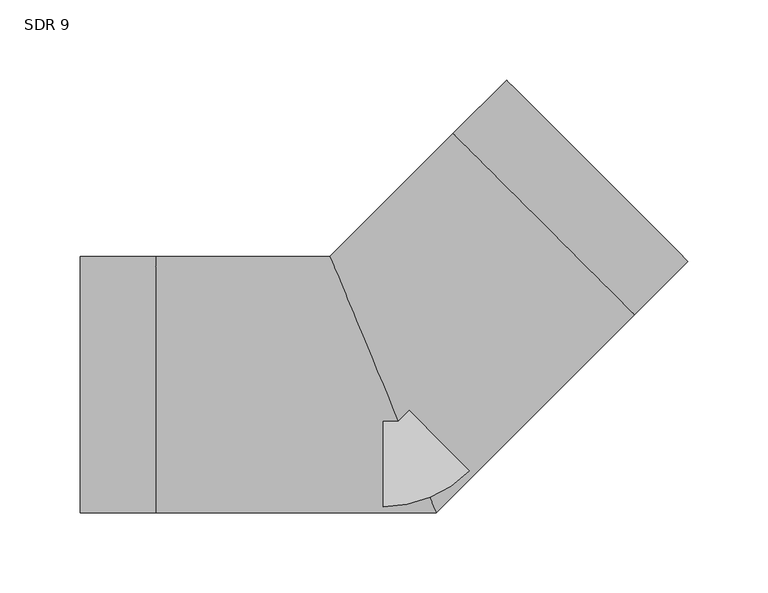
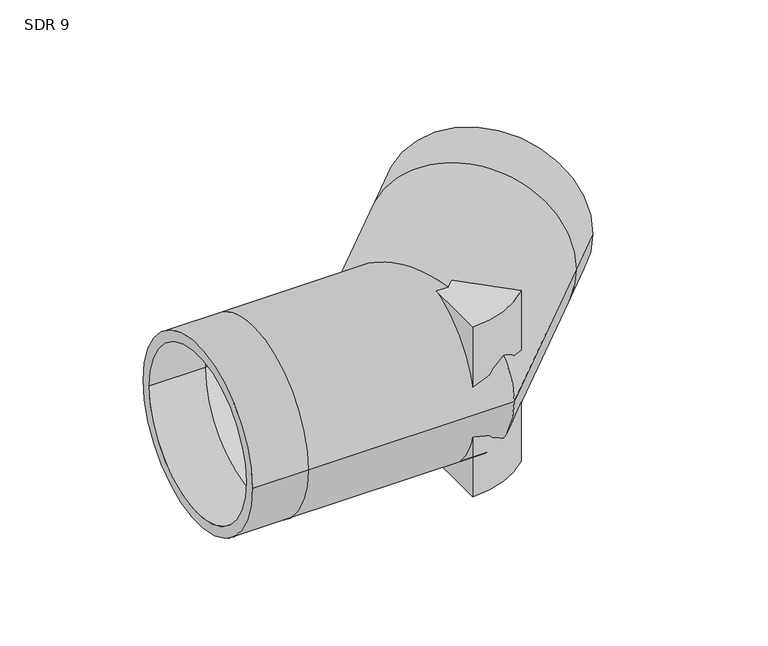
"""IFC4 building model written with IfcOpenShell, lengths in millimetres: pipe fitting geometry, Aquatherm - Elbow Blue BW Segmented : SDR 9."""

from ifc_helpers import new_model, si_unit, point, frame, origin, origin_with_axes, origin_2d, place, context, project, spatial, polyline, circle_curve, ellipse_curve, trimmed, segment, composite_curve, outline, extrude, source, transform, mapped, element, save
from ifc_brep_helpers import plane_surface, cylinder_surface, revolved_surface, advanced_brep


def sdr_9_eb6b9208(model_context):
    return source(origin(), model_context, "Body", "SolidModel", [
        extrude(outline(composite_curve([segment(polyline([(0.0, -76.2), (0.0, 0.0), (53.8815367, -53.8815367)]), True, "CONTINUOUS"), segment(trimmed(circle_curve(origin_2d(), 76.2), [point((53.8815367, -53.8815367))], [point((0.0, -76.2))], False, "CARTESIAN"), True, "CONTINUOUS")], self_intersect=False)), frame((0.0, 0.0, -76.2), z_axis=(0.0, 0.0, 1.0), x_axis=(1.0, 0.0, 0.0)), (0.0, 0.0, 1.0), 76.2),
        extrude(outline(composite_curve([segment(trimmed(circle_curve(origin_2d(), 76.2), [point((53.8815367, -53.8815367))], [point((0.0, -76.2))], False, "CARTESIAN"), True, "CONTINUOUS"), segment(polyline([(0.0, -76.2), (0.0, 0.0), (53.8815367, -53.8815367)]), True, "CONTINUOUS")], self_intersect=False)), origin_with_axes(), (0.0, 0.0, 1.0), 76.2),
        advanced_brep(
        [(-188.976, -80.01, 0.0), (-188.976, 80.01, 0.0), (-188.976, -70.9187617, 0.0), (-188.976, 70.9187617, 0.0), (190.2018246, 77.0505975, 0.0), (77.0505975, 190.2018246, 0.0), (183.7733484, 83.4790738, 0.0), (83.4790738, 183.7733484, 0.0), (-141.732, -80.01, 0.0), (-141.732, 80.01, 0.0), (-141.732, -70.9187617, 0.0), (-141.732, 70.9187617, 0.0), (33.1412271, -80.01, 0.0), (-33.1412271, 80.01, 0.0), (29.3755129, -70.9187617, 0.0), (-29.3755129, 70.9187617, 0.0), (156.7952719, 43.6440447, 0.0), (43.6440447, 156.7952719, 0.0), (150.3667956, 50.072521, 0.0), (50.072521, 150.3667956, 0.0)],
        [
            (0, 1, circle_curve(frame((-188.976, 0.0, 0.0), z_axis=(-1.0, 0.0, 0.0), x_axis=(0.0, 1.0, 0.0)), 80.01)),
            (1, 0, circle_curve(frame((-188.976, 0.0, 0.0), z_axis=(-1.0, 0.0, 0.0), x_axis=(0.0, 1.0, 0.0)), 80.01)),
            (2, 3, circle_curve(frame((-188.976, 0.0, 0.0), z_axis=(1.0, 0.0, 0.0), x_axis=(0.0, 1.0, 0.0)), 70.9187617)),
            (3, 2, circle_curve(frame((-188.976, 0.0, 0.0), z_axis=(1.0, 0.0, 0.0), x_axis=(0.0, 1.0, 0.0)), 70.9187617)),
            (4, 5, circle_curve(frame((133.6262111, 133.6262111, 0.0), z_axis=(0.7071067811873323, 0.7071067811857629, 0.0), x_axis=(-0.7071067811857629, 0.7071067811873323, 0.0)), 80.01)),
            (5, 4, circle_curve(frame((133.6262111, 133.6262111, 0.0), z_axis=(0.7071067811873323, 0.7071067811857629, 0.0), x_axis=(-0.7071067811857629, 0.7071067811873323, 0.0)), 80.01)),
            (6, 7, circle_curve(frame((133.6262111, 133.6262111, 0.0), z_axis=(-0.7071067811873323, -0.7071067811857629, 0.0), x_axis=(-0.7071067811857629, 0.7071067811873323, 0.0)), 70.9187617)),
            (7, 6, circle_curve(frame((133.6262111, 133.6262111, 0.0), z_axis=(-0.7071067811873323, -0.7071067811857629, 0.0), x_axis=(-0.7071067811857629, 0.7071067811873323, 0.0)), 70.9187617)),
            (0, 8),
            (8, 9, circle_curve(frame((-141.732, 0.0, 0.0), z_axis=(-1.0, 0.0, 0.0), x_axis=(0.0, 1.0, 0.0)), 80.01)),
            (9, 1),
            (9, 8, circle_curve(frame((-141.732, 0.0, 0.0), z_axis=(-1.0, 0.0, 0.0), x_axis=(0.0, 1.0, 0.0)), 80.01)),
            (2, 10),
            (10, 11, circle_curve(frame((-141.732, 0.0, 0.0), z_axis=(1.0, 0.0, 0.0), x_axis=(0.0, 1.0, 0.0)), 70.9187617)),
            (11, 3),
            (11, 10, circle_curve(frame((-141.732, 0.0, 0.0), z_axis=(1.0, 0.0, 0.0), x_axis=(0.0, 1.0, 0.0)), 70.9187617)),
            (8, 12),
            (12, 13, ellipse_curve(frame((0.0, 0.0, 0.0), z_axis=(-0.9238795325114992, -0.38268343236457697, 0.0), x_axis=(-0.3826834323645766, 0.9238795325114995, 0.0)), 86.6021999, 80.01)),
            (13, 9),
            (13, 12, ellipse_curve(frame((0.0, 0.0, 0.0), z_axis=(-0.9238795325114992, -0.38268343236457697, 0.0), x_axis=(-0.3826834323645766, 0.9238795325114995, 0.0)), 86.6021999, 80.01)),
            (10, 14),
            (14, 15, ellipse_curve(frame((0.0, 0.0, 0.0), z_axis=(0.9238795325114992, 0.38268343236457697, 0.0), x_axis=(0.3826834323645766, -0.9238795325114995, 0.0)), 76.7619145, 70.9187617)),
            (15, 11),
            (15, 14, ellipse_curve(frame((0.0, 0.0, 0.0), z_axis=(0.9238795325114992, 0.38268343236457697, 0.0), x_axis=(0.3826834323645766, -0.9238795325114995, 0.0)), 76.7619145, 70.9187617)),
            (12, 16),
            (16, 17, circle_curve(frame((100.2196583, 100.2196583, 0.0), z_axis=(-0.7071067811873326, -0.7071067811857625, 0.0), x_axis=(-0.7071067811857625, 0.7071067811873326, 0.0)), 80.01)),
            (17, 13),
            (17, 16, circle_curve(frame((100.2196583, 100.2196583, 0.0), z_axis=(-0.7071067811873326, -0.7071067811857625, 0.0), x_axis=(-0.7071067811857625, 0.7071067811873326, 0.0)), 80.01)),
            (14, 18),
            (18, 19, circle_curve(frame((100.2196583, 100.2196583, 0.0), z_axis=(0.7071067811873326, 0.7071067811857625, 0.0), x_axis=(-0.7071067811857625, 0.7071067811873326, 0.0)), 70.9187617)),
            (19, 15),
            (19, 18, circle_curve(frame((100.2196583, 100.2196583, 0.0), z_axis=(0.7071067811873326, 0.7071067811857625, 0.0), x_axis=(-0.7071067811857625, 0.7071067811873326, 0.0)), 70.9187617)),
            (16, 4),
            (5, 17),
            (18, 6),
            (7, 19),
        ],
        [
            plane_surface(frame((-188.976, 0.0, 0.0), z_axis=(-1.0, 0.0, 0.0), x_axis=(0.0, 0.0, 1.0))),
            plane_surface(frame((133.6262111, 133.6262111, 0.0), z_axis=(0.7071067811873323, 0.7071067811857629, 0.0), x_axis=(0.0, 0.0, 1.0))),
            cylinder_surface(frame((-188.976, 0.0, 0.0), z_axis=(-1.0, 0.0, 0.0), x_axis=(0.0, 1.0, 0.0)), 80.01),
            revolved_surface(polyline([(-141.732, 70.9187617, 0.0), (-188.976, 70.9187617, 0.0)]), (-188.976, 0.0, 0.0), (1.0, 0.0, 0.0)),
            cylinder_surface(frame((-141.732, 0.0, 0.0), z_axis=(-1.0, 0.0, 0.0), x_axis=(0.0, 1.0, 0.0)), 80.01),
            revolved_surface(polyline([(29.375512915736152, 70.9187617, 0.0), (-141.732, 70.9187617, 0.0)]), (-141.732, 0.0, 0.0), (1.0, 0.0, 0.0)),
            cylinder_surface(frame((0.0, 0.0, 0.0), z_axis=(-0.7071067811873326, -0.7071067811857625, 0.0), x_axis=(-0.7071067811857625, 0.7071067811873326, 0.0)), 80.01),
            revolved_surface(polyline([(50.0725209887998, 150.3667956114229, 0.0), (-70.91876171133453, 29.37551291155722, 0.0)]), (0.0, 0.0, 0.0), (0.7071067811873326, 0.7071067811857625, 0.0)),
            cylinder_surface(frame((100.2196583, 100.2196583, 0.0), z_axis=(-0.7071067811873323, -0.7071067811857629, 0.0), x_axis=(-0.7071067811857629, 0.7071067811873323, 0.0)), 80.01),
            revolved_surface(polyline([(83.47907378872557, 183.77334841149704, 0.0), (50.07252098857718, 150.3667956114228, 0.0)]), (100.2196583, 100.2196583, 0.0), (0.7071067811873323, 0.7071067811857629, 0.0)),
        ],
        [
            (0, [[1, 2], [3, 4]]),
            (1, [[5, 6], [7, 8]]),
            (2, [[-1, 9, 10, 11]]),
            (2, [[-2, -11, 12, -9]]),
            (3, [[-3, 13, 14, 15]]),
            (3, [[-4, -15, 16, -13]]),
            (4, [[-10, 17, 18, 19]]),
            (4, [[-12, -19, 20, -17]]),
            (5, [[-14, 21, 22, 23]]),
            (5, [[-16, -23, 24, -21]]),
            (6, [[-18, 25, 26, 27]]),
            (6, [[-20, -27, 28, -25]]),
            (7, [[-22, 29, 30, 31]]),
            (7, [[-24, -31, 32, -29]]),
            (8, [[-26, 33, -6, 34]]),
            (8, [[-28, -34, -5, -33]]),
            (9, [[-30, 35, -8, 36]]),
            (9, [[-32, -36, -7, -35]]),
        ],
    ),
    ])


if __name__ == "__main__":
    model = new_model("IFC4")
    model_context = context("Model", 3, world=origin())
    ifc_project = project(units=[si_unit("LENGTHUNIT", "METRE", prefix="MILLI")], contexts=[model_context])
    site = spatial("IfcSite", under=ifc_project)
    building = spatial("IfcBuilding", under=site)
    placement = place(None, origin())
    sdr_9_shape = sdr_9_eb6b9208(model_context)
    element("IfcPipeFitting", 1, ObjectType="Aquatherm - Elbow Blue BW Segmented : SDR 9", at=placement, inside=building, context=model_context, shape_type="MappedRepresentation", body=[
        mapped(sdr_9_shape, transform((0.0, 0.0, 0.0), x_axis=(1.0, 0.0, 0.0), y_axis=(0.0, 1.0, 0.0), z_axis=(0.0, 0.0, 1.0))),
    ])
    save(model, "model.ifc")
